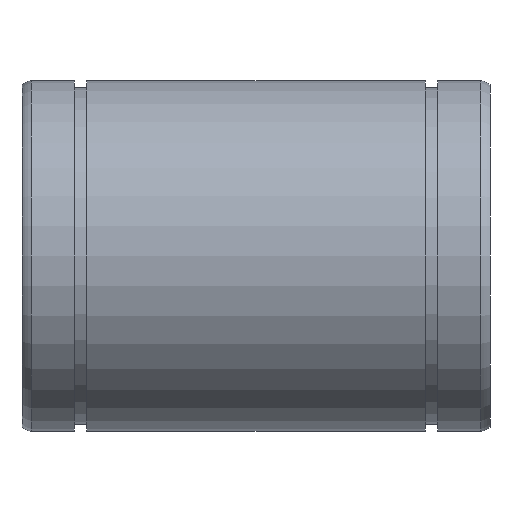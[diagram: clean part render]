
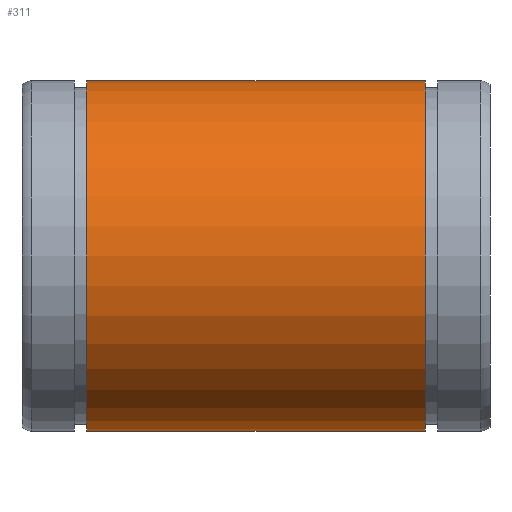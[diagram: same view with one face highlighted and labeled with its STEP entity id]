
A CAD part, front view. The second image highlights one B-rep face of the part: STEP entity #311.
In plain terms, the highlighted cylindrical face has radius 37.5 mm (diameter 75 mm), a full revolution.
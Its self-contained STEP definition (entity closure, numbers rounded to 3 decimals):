
#277=CARTESIAN_POINT('',(86.2,0.0,37.5));
#278=VERTEX_POINT('',#277);
#279=CARTESIAN_POINT('',(86.2,0.0,0.));
#280=DIRECTION('',(-1.0,0.0,0.0));
#281=DIRECTION('',(0.0,0.0,1.0));
#282=AXIS2_PLACEMENT_3D('',#279,#280,#281);
#283=CIRCLE('',#282,37.5);
#284=EDGE_CURVE('',#278,#278,#283,.T.);
#292=CARTESIAN_POINT('',(50.,0.0,0.));
#293=DIRECTION('',(-1.0,0.0,0.0));
#294=DIRECTION('',(0.0,0.0,1.0));
#295=AXIS2_PLACEMENT_3D('',#292,#293,#294);
#296=CYLINDRICAL_SURFACE('',#295,37.5);
#297=CARTESIAN_POINT('',(13.8,0.0,37.5));
#298=VERTEX_POINT('',#297);
#299=CARTESIAN_POINT('',(13.8,0.0,0.));
#300=DIRECTION('',(-1.0,0.0,0.0));
#301=DIRECTION('',(0.0,0.0,1.0));
#302=AXIS2_PLACEMENT_3D('',#299,#300,#301);
#303=CIRCLE('',#302,37.5);
#304=EDGE_CURVE('',#298,#298,#303,.T.);
#305=ORIENTED_EDGE('',*,*,#304,.F.);
#306=EDGE_LOOP('',(#305));
#307=FACE_OUTER_BOUND('',#306,.T.);
#308=ORIENTED_EDGE('',*,*,#284,.T.);
#309=EDGE_LOOP('',(#308));
#310=FACE_BOUND('',#309,.T.);
#311=ADVANCED_FACE('',(#307,#310),#296,.T.);
